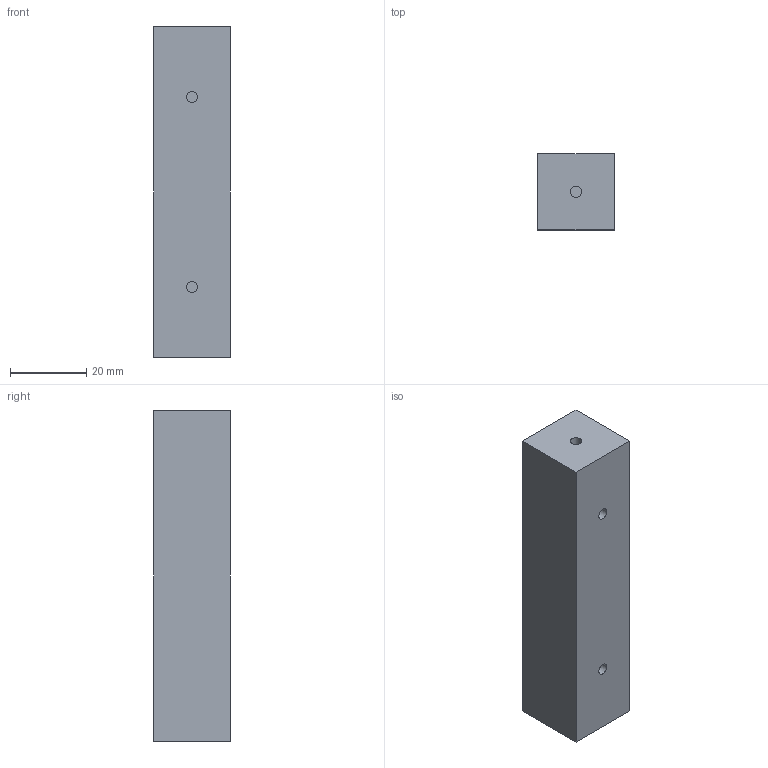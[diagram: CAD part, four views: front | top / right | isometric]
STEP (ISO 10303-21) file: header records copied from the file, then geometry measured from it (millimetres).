
FILE_DESCRIPTION(('Open CASCADE Model'),'2;1');
FILE_NAME('Open CASCADE Shape Model','2026-10-28T07:21:43',('Author'),( 'Open CASCADE'),'Open CASCADE STEP processor 7.8','Open CASCADE 7.8' ,'Unknown');
FILE_SCHEMA(('AUTOMOTIVE_DESIGN { 1 0 10303 214 1 1 1 1 }'));
Length unit declared in the file: millimetre
Products named in the file (1): Open CASCADE STEP translator 7.8 18
Bounding box: 20 x 20 x 87 mm (x, y, z)
Volume: 34573.8 mm3; surface area: 8061.6 mm2
Topology: 1 solids, 1 shells, 14 faces, 24 edges, 16 vertices
Faces by surface type: plane 10, cylinder 4
Full cylindrical faces by diameter (mm): 3 x4
Entity records: 661 total; most frequent: CARTESIAN_POINT 109, DIRECTION 109, LINE 56, VECTOR 56, ORIENTED_EDGE 48, PCURVE 48, DEFINITIONAL_REPRESENTATION 48, EDGE_CURVE 24
